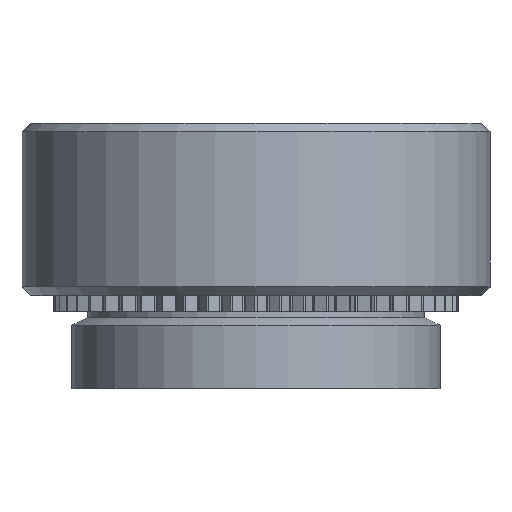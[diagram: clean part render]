
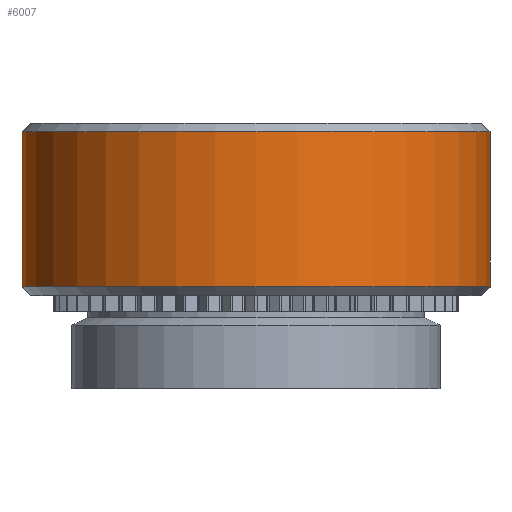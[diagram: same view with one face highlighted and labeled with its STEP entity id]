
A CAD part, top view. The second image highlights one B-rep face of the part: STEP entity #6007.
In plain terms, the highlighted cylindrical face has radius 5.55 mm (diameter 11.1 mm), a full revolution.
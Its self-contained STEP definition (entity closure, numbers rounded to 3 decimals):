
#127=CYLINDRICAL_SURFACE('',#6358,5.55);
#340=FACE_OUTER_BOUND('',#665,.T.);
#665=EDGE_LOOP('',(#4086,#4087,#4088,#4089,#4090,#4091));
#994=LINE('',#9167,#1523);
#1523=VECTOR('',#7127,5.55);
#2051=CIRCLE('',#6355,5.55);
#2052=CIRCLE('',#6356,5.55);
#2054=CIRCLE('',#6359,5.55);
#2055=CIRCLE('',#6360,5.55);
#2482=VERTEX_POINT('',#9155);
#2483=VERTEX_POINT('',#9156);
#2485=VERTEX_POINT('',#9163);
#2486=VERTEX_POINT('',#9164);
#3121=EDGE_CURVE('',#2482,#2483,#2051,.T.);
#3122=EDGE_CURVE('',#2483,#2482,#2052,.T.);
#3125=EDGE_CURVE('',#2485,#2486,#2054,.T.);
#3126=EDGE_CURVE('',#2486,#2485,#2055,.T.);
#3127=EDGE_CURVE('',#2486,#2483,#994,.T.);
#4086=ORIENTED_EDGE('',*,*,#3125,.F.);
#4087=ORIENTED_EDGE('',*,*,#3126,.F.);
#4088=ORIENTED_EDGE('',*,*,#3127,.T.);
#4089=ORIENTED_EDGE('',*,*,#3121,.F.);
#4090=ORIENTED_EDGE('',*,*,#3122,.F.);
#4091=ORIENTED_EDGE('',*,*,#3127,.F.);
#6007=ADVANCED_FACE('',(#340),#127,.T.);
#6355=AXIS2_PLACEMENT_3D('',#9157,#7114,#7115);
#6356=AXIS2_PLACEMENT_3D('',#9158,#7116,#7117);
#6358=AXIS2_PLACEMENT_3D('',#9162,#7121,#7122);
#6359=AXIS2_PLACEMENT_3D('',#9165,#7123,#7124);
#6360=AXIS2_PLACEMENT_3D('',#9166,#7125,#7126);
#7114=DIRECTION('center_axis',(0.,-1.,0.));
#7115=DIRECTION('ref_axis',(1.,0.,0.));
#7116=DIRECTION('center_axis',(0.,-1.,0.));
#7117=DIRECTION('ref_axis',(1.,0.,0.));
#7121=DIRECTION('center_axis',(0.,1.,0.));
#7122=DIRECTION('ref_axis',(-1.,0.,0.));
#7123=DIRECTION('center_axis',(0.,1.,0.));
#7124=DIRECTION('ref_axis',(1.,0.,0.));
#7125=DIRECTION('center_axis',(0.,1.,0.));
#7126=DIRECTION('ref_axis',(1.,0.,0.));
#7127=DIRECTION('',(0.,-1.,0.));
#9155=CARTESIAN_POINT('',(-5.55,2.41,0.));
#9156=CARTESIAN_POINT('',(5.55,2.41,0.));
#9157=CARTESIAN_POINT('Origin',(0.,2.41,0.));
#9158=CARTESIAN_POINT('Origin',(0.,2.41,0.));
#9162=CARTESIAN_POINT('Origin',(0.,4.25,0.));
#9163=CARTESIAN_POINT('',(-5.55,6.09,0.));
#9164=CARTESIAN_POINT('',(5.55,6.09,0.));
#9165=CARTESIAN_POINT('Origin',(0.,6.09,0.));
#9166=CARTESIAN_POINT('Origin',(0.,6.09,0.));
#9167=CARTESIAN_POINT('',(5.55,4.25,0.));
